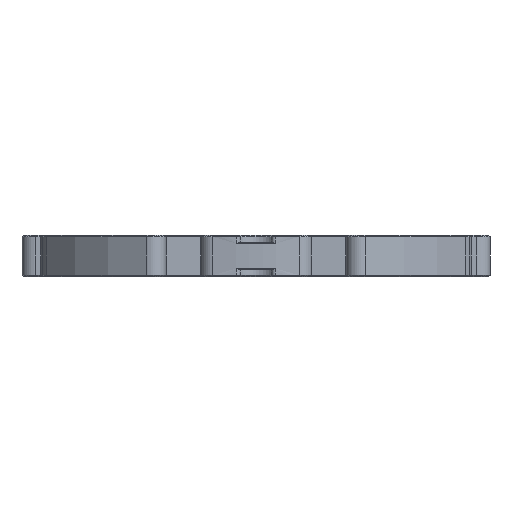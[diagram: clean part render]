
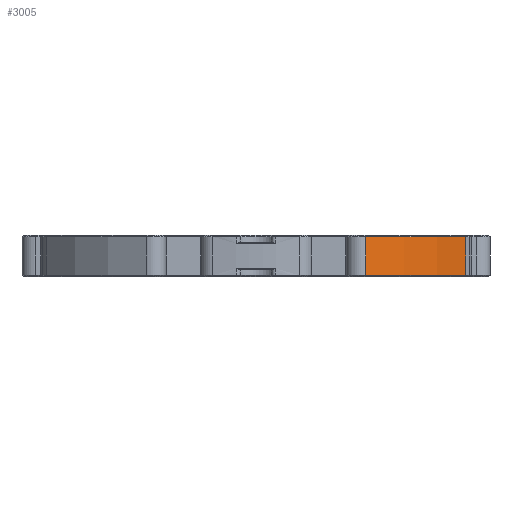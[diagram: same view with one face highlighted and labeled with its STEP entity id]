
A CAD part, front view. The second image highlights one B-rep face of the part: STEP entity #3005.
In plain terms, the highlighted cylindrical face has radius 36.75 mm (diameter 73.5 mm), a partial arc.
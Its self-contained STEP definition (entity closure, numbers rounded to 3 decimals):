
#64 = CARTESIAN_POINT ( 'NONE',  ( 30.278, -20.829, -3. ) ) ;
#1714 = ORIENTED_EDGE ( 'NONE', *, *, #4676, .T. ) ;
#2001 = LINE ( 'NONE', #64, #14727 ) ;
#2663 = CARTESIAN_POINT ( 'NONE',  ( 0., 0., 2.8 ) ) ;
#2908 = CYLINDRICAL_SURFACE ( 'NONE', #4608, 36.75 ) ;
#3005 = ADVANCED_FACE ( 'NONE', ( #20033 ), #2908, .T. ) ;
#3051 = VERTEX_POINT ( 'NONE', #13183 ) ;
#3059 = CARTESIAN_POINT ( 'NONE',  ( 15.863, -33.15, 2.8 ) ) ;
#4608 = AXIS2_PLACEMENT_3D ( 'NONE', #21946, #16947, #22167 ) ;
#4676 = EDGE_CURVE ( 'NONE', #11262, #17631, #13740, .T. ) ;
#4713 = DIRECTION ( 'NONE',  ( 0., 0., 1. ) ) ;
#6658 = CARTESIAN_POINT ( 'NONE',  ( 0., 0., -2.8 ) ) ;
#7596 = ORIENTED_EDGE ( 'NONE', *, *, #12119, .T. ) ;
#8240 = VECTOR ( 'NONE', #22374, 1000. ) ;
#8839 = ORIENTED_EDGE ( 'NONE', *, *, #20145, .T. ) ;
#9791 = ORIENTED_EDGE ( 'NONE', *, *, #21447, .T. ) ;
#11262 = VERTEX_POINT ( 'NONE', #11732 ) ;
#11732 = CARTESIAN_POINT ( 'NONE',  ( 30.278, -20.829, 2.8 ) ) ;
#11896 = DIRECTION ( 'NONE',  ( -1., 0., 0. ) ) ;
#12119 = EDGE_CURVE ( 'NONE', #17631, #3051, #19096, .T. ) ;
#13112 = CARTESIAN_POINT ( 'NONE',  ( 30.278, -20.829, -2.8 ) ) ;
#13183 = CARTESIAN_POINT ( 'NONE',  ( 15.863, -33.15, -2.8 ) ) ;
#13740 = CIRCLE ( 'NONE', #15566, 36.75 ) ;
#14035 = AXIS2_PLACEMENT_3D ( 'NONE', #6658, #4713, #11896 ) ;
#14727 = VECTOR ( 'NONE', #15920, 1000. ) ;
#15566 = AXIS2_PLACEMENT_3D ( 'NONE', #2663, #18192, #20230 ) ;
#15920 = DIRECTION ( 'NONE',  ( 0., 0., 1. ) ) ;
#16780 = EDGE_LOOP ( 'NONE', ( #7596, #9791, #8839, #1714 ) ) ;
#16947 = DIRECTION ( 'NONE',  ( 0., 0., 1. ) ) ;
#17631 = VERTEX_POINT ( 'NONE', #3059 ) ;
#18192 = DIRECTION ( 'NONE',  ( 0., 0., -1. ) ) ;
#18523 = VERTEX_POINT ( 'NONE', #13112 ) ;
#18868 = CARTESIAN_POINT ( 'NONE',  ( 15.863, -33.15, -3. ) ) ;
#19096 = LINE ( 'NONE', #18868, #8240 ) ;
#20033 = FACE_OUTER_BOUND ( 'NONE', #16780, .T. ) ;
#20145 = EDGE_CURVE ( 'NONE', #18523, #11262, #2001, .T. ) ;
#20230 = DIRECTION ( 'NONE',  ( -1., 0., 0. ) ) ;
#21278 = CIRCLE ( 'NONE', #14035, 36.75 ) ;
#21447 = EDGE_CURVE ( 'NONE', #3051, #18523, #21278, .T. ) ;
#21946 = CARTESIAN_POINT ( 'NONE',  ( 0., 0., -3. ) ) ;
#22167 = DIRECTION ( 'NONE',  ( 1., 0., 0. ) ) ;
#22374 = DIRECTION ( 'NONE',  ( 0., 0., -1. ) ) ;
